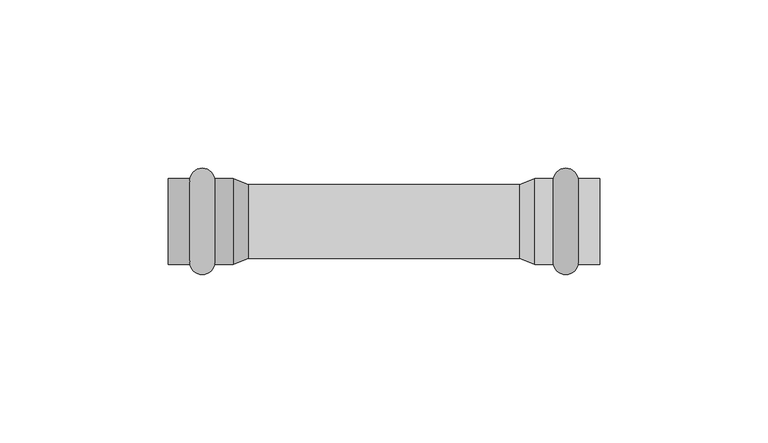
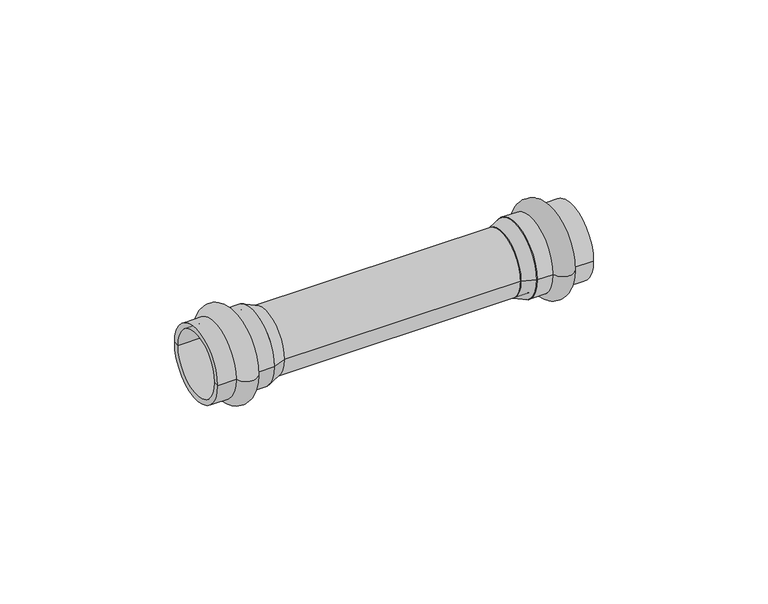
"""IFC4 building model written with IfcOpenShell, lengths in millimetres: pipe fitting geometry, VALTEC_VTi.903.I_Соединитель прямой нержавеющая сталь : VTi.903.I."""

from ifc_helpers import new_model, si_unit, point, frame, origin, origin_2d, place, context, project, spatial, polyline, circle_curve, ellipse_curve, trimmed, segment, composite_curve, outline, extrude, source, transform, mapped, element, save
from ifc_brep_helpers import plane_surface, cylinder_surface, revolved_surface, advanced_brep


def pipe_fitting_5c15d2d0(model_context):
    return source(origin(), model_context, "Body", "SolidModel", [
        advanced_brep(
        [(121.6242346, 12.8, 0.0), (121.6242346, -12.8, 0.0), (114.2757654, -12.8, 0.0), (114.2757654, 12.8, 0.0), (128.0, 12.8, 0.0), (128.0, -12.8, 0.0), (128.0, 11.0, 0.0), (128.0, -11.0, 0.0), (108.8, 11.0, 0.0), (108.8, -11.0, 0.0), (108.8, 12.8, 0.0), (108.8, -12.8, 0.0)],
        [
            (0, 1, circle_curve(frame((121.6242346, 0.0, 0.0), z_axis=(-1.0, 0.0, 0.0), x_axis=(0.0, -1.0, 0.0)), 12.8)),
            (1, 2, circle_curve(frame((117.95, -12.05, 0.0), z_axis=(0.0, 0.0, -1.0), x_axis=(-1.0, 0.0, 0.0)), 3.75)),
            (2, 3, circle_curve(frame((114.2757654, 0.0, 0.0), z_axis=(1.0, 0.0, 0.0), x_axis=(0.0, -1.0, 0.0)), 12.8)),
            (3, 0, circle_curve(frame((117.95, 12.05, 0.0), z_axis=(0.0, 0.0, -1.0), x_axis=(-1.0, 0.0, 0.0)), 3.75)),
            (1, 0, circle_curve(frame((121.6242346, 0.0, 0.0), z_axis=(-1.0, 0.0, 0.0), x_axis=(0.0, -1.0, 0.0)), 12.8)),
            (3, 2, circle_curve(frame((114.2757654, 0.0, 0.0), z_axis=(1.0, 0.0, 0.0), x_axis=(0.0, -1.0, 0.0)), 12.8)),
            (4, 5, circle_curve(frame((128.0, 0.0, 0.0), z_axis=(-1.0, 0.0, 0.0), x_axis=(0.0, -1.0, 0.0)), 12.8)),
            (5, 1),
            (0, 4),
            (5, 4, circle_curve(frame((128.0, 0.0, 0.0), z_axis=(-1.0, 0.0, 0.0), x_axis=(0.0, -1.0, 0.0)), 12.8)),
            (6, 7, circle_curve(frame((128.0, 0.0, 0.0), z_axis=(-1.0, 0.0, 0.0), x_axis=(0.0, -1.0, 0.0)), 11.0)),
            (7, 5),
            (4, 6),
            (7, 6, circle_curve(frame((128.0, 0.0, 0.0), z_axis=(-1.0, 0.0, 0.0), x_axis=(0.0, -1.0, 0.0)), 11.0)),
            (8, 9, circle_curve(frame((108.8, 0.0, 0.0), z_axis=(-1.0, 0.0, 0.0), x_axis=(0.0, -1.0, 0.0)), 11.0)),
            (9, 7),
            (6, 8),
            (9, 8, circle_curve(frame((108.8, 0.0, 0.0), z_axis=(-1.0, 0.0, 0.0), x_axis=(0.0, -1.0, 0.0)), 11.0)),
            (10, 11, circle_curve(frame((108.8, 0.0, 0.0), z_axis=(-1.0, 0.0, 0.0), x_axis=(0.0, -1.0, 0.0)), 12.8)),
            (11, 9),
            (8, 10),
            (11, 10, circle_curve(frame((108.8, 0.0, 0.0), z_axis=(-1.0, 0.0, 0.0), x_axis=(0.0, -1.0, 0.0)), 12.8)),
            (2, 11),
            (10, 3),
        ],
        [
            revolved_surface(trimmed(ellipse_curve(frame((117.95, -12.05, 0.0), z_axis=(0.0, 0.0, 1.0), x_axis=(-1.0, 0.0, 0.0)), 3.75, 3.75), [point((114.2757654, -12.8, 0.0))], [point((121.6242346, -12.8, 0.0))], True, "CARTESIAN"), (131.5364426, 0.0, 0.0), (1.0, 0.0, 0.0)),
            cylinder_surface(frame((131.5364426, 0.0, 0.0), z_axis=(1.0, 0.0, 0.0), x_axis=(0.0, -1.0, 0.0)), 12.8),
            plane_surface(frame((128.0, 0.0, 0.0), z_axis=(1.0, 0.0, 0.0), x_axis=(0.0, -1.0, 0.0))),
            revolved_surface(polyline([(128.0, -11.0, 0.0), (108.8, -11.0, 0.0)]), (131.5364426, 0.0, 0.0), (1.0, 0.0, 0.0)),
            plane_surface(frame((108.8, 0.0, 0.0), z_axis=(-1.0, 0.0, 0.0), x_axis=(0.0, -1.0, 0.0))),
        ],
        [
            (0, [[1, 2, 3, 4]]),
            (0, [[5, -4, 6, -2]]),
            (1, [[7, 8, -1, 9]]),
            (1, [[10, -9, -5, -8]]),
            (2, [[11, 12, -7, 13]]),
            (2, [[14, -13, -10, -12]]),
            (3, [[15, 16, -11, 17]]),
            (3, [[18, -17, -14, -16]]),
            (4, [[19, 20, -15, 21]]),
            (4, [[22, -21, -18, -20]]),
            (1, [[-3, 23, -19, 24]]),
            (1, [[-6, -24, -22, -23]]),
        ],
    ),
        advanced_brep(
        [(6.3757654, -12.8, 0.0), (6.3757654, 12.8, 0.0), (13.7242346, 12.8, 0.0), (13.7242346, -12.8, 0.0), (0.0, -12.8, 0.0), (0.0, 12.8, 0.0), (0.0, -11.0, 0.0), (0.0, 11.0, 0.0), (19.2, -11.0, 0.0), (19.2, 11.0, 0.0), (19.2, -12.8, 0.0), (19.2, 12.8, 0.0)],
        [
            (0, 1, circle_curve(frame((6.3757654, 0.0, 0.0), z_axis=(1.0, 0.0, 0.0), x_axis=(0.0, 1.0, 0.0)), 12.8)),
            (1, 2, circle_curve(frame((10.05, 12.05, 0.0), z_axis=(0.0, 0.0, -1.0), x_axis=(1.0, 0.0, 0.0)), 3.75)),
            (2, 3, circle_curve(frame((13.7242346, 0.0, 0.0), z_axis=(-1.0, 0.0, 0.0), x_axis=(0.0, 1.0, 0.0)), 12.8)),
            (3, 0, circle_curve(frame((10.05, -12.05, 0.0), z_axis=(0.0, 0.0, -1.0), x_axis=(1.0, 0.0, 0.0)), 3.75)),
            (1, 0, circle_curve(frame((6.3757654, 0.0, 0.0), z_axis=(1.0, 0.0, 0.0), x_axis=(0.0, 1.0, 0.0)), 12.8)),
            (3, 2, circle_curve(frame((13.7242346, 0.0, 0.0), z_axis=(-1.0, 0.0, 0.0), x_axis=(0.0, 1.0, 0.0)), 12.8)),
            (4, 5, circle_curve(frame((0.0, 0.0, 0.0), z_axis=(1.0, 0.0, 0.0), x_axis=(0.0, 1.0, 0.0)), 12.8)),
            (5, 1),
            (0, 4),
            (5, 4, circle_curve(frame((0.0, 0.0, 0.0), z_axis=(1.0, 0.0, 0.0), x_axis=(0.0, 1.0, 0.0)), 12.8)),
            (6, 7, circle_curve(frame((0.0, 0.0, 0.0), z_axis=(1.0, 0.0, 0.0), x_axis=(0.0, 1.0, 0.0)), 11.0)),
            (7, 5),
            (4, 6),
            (7, 6, circle_curve(frame((0.0, 0.0, 0.0), z_axis=(1.0, 0.0, 0.0), x_axis=(0.0, 1.0, 0.0)), 11.0)),
            (8, 9, circle_curve(frame((19.2, 0.0, 0.0), z_axis=(1.0, 0.0, 0.0), x_axis=(0.0, 1.0, 0.0)), 11.0)),
            (9, 7),
            (6, 8),
            (9, 8, circle_curve(frame((19.2, 0.0, 0.0), z_axis=(1.0, 0.0, 0.0), x_axis=(0.0, 1.0, 0.0)), 11.0)),
            (10, 11, circle_curve(frame((19.2, 0.0, 0.0), z_axis=(1.0, 0.0, 0.0), x_axis=(0.0, 1.0, 0.0)), 12.8)),
            (11, 9),
            (8, 10),
            (11, 10, circle_curve(frame((19.2, 0.0, 0.0), z_axis=(1.0, 0.0, 0.0), x_axis=(0.0, 1.0, 0.0)), 12.8)),
            (2, 11),
            (10, 3),
        ],
        [
            revolved_surface(trimmed(ellipse_curve(frame((10.05, 12.05, 0.0), z_axis=(0.0, 0.0, 1.0), x_axis=(1.0, 0.0, 0.0)), 3.75, 3.75), [point((13.7242346, 12.8, 0.0))], [point((6.3757654, 12.8, 0.0))], True, "CARTESIAN"), (-3.5364426, 0.0, 0.0), (-1.0, 0.0, 0.0)),
            cylinder_surface(frame((-3.5364426, 0.0, 0.0), z_axis=(-1.0, 0.0, 0.0), x_axis=(0.0, 1.0, 0.0)), 12.8),
            plane_surface(frame((0.0, 0.0, 0.0), z_axis=(-1.0, 0.0, 0.0), x_axis=(0.0, 1.0, 0.0))),
            revolved_surface(polyline([(0.0, 11.0, 0.0), (19.2, 11.0, 0.0)]), (-3.5364426, 0.0, 0.0), (-1.0, 0.0, 0.0)),
            plane_surface(frame((19.2, 0.0, 0.0), z_axis=(1.0, 0.0, 0.0), x_axis=(0.0, 1.0, 0.0))),
        ],
        [
            (0, [[1, 2, 3, 4]]),
            (0, [[5, -4, 6, -2]]),
            (1, [[7, 8, -1, 9]]),
            (1, [[10, -9, -5, -8]]),
            (2, [[11, 12, -7, 13]]),
            (2, [[14, -13, -10, -12]]),
            (3, [[15, 16, -11, 17]]),
            (3, [[18, -17, -14, -16]]),
            (4, [[19, 20, -15, 21]]),
            (4, [[22, -21, -18, -20]]),
            (1, [[-3, 23, -19, 24]]),
            (1, [[-6, -24, -22, -23]]),
        ],
    ),
        advanced_brep(
        [(19.2, -12.8, 0.0), (19.2, 12.8, 0.0), (23.68, -11.0, 0.0), (23.68, 11.0, 0.0)],
        [
            (0, 1, circle_curve(frame((19.2, 0.0, 0.0), z_axis=(-1.0, 0.0, 0.0), x_axis=(0.0, -1.0, 0.0)), 12.8)),
            (1, 0, circle_curve(frame((19.2, 0.0, 0.0), z_axis=(-1.0, 0.0, 0.0), x_axis=(0.0, 1.0, 0.0)), 12.8)),
            (2, 3, circle_curve(frame((23.68, 0.0, 0.0), z_axis=(1.0, 0.0, 0.0), x_axis=(0.0, 1.0, 0.0)), 11.0)),
            (3, 2, circle_curve(frame((23.68, 0.0, 0.0), z_axis=(1.0, 0.0, 0.0), x_axis=(0.0, -1.0, 0.0)), 11.0)),
            (2, 0),
            (1, 3),
        ],
        [
            plane_surface(frame((19.2, 0.0, 0.0), z_axis=(-1.0, 0.0, 0.0), x_axis=(0.0, 0.0, 1.0))),
            plane_surface(frame((23.68, 0.0, 0.0), z_axis=(1.0, 0.0, 0.0), x_axis=(0.0, 0.0, 1.0))),
            revolved_surface(polyline([(23.68, -11.00000000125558, 0.0), (19.2, -12.8, 0.0)]), (51.0577778, 0.0, 0.0), (-1.0, 0.0, 0.0)),
            revolved_surface(polyline([(23.68, 11.00000000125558, 0.0), (19.2, 12.8, 0.0)]), (51.0577778, 0.0, 0.0), (-1.0, 0.0, 0.0)),
        ],
        [
            (0, [[1, 2]]),
            (1, [[3, 4]]),
            (2, [[-3, 5, -2, 6]]),
            (3, [[-4, -6, -1, -5]]),
        ],
    ),
        advanced_brep(
        [(108.8, -12.8, 0.0), (108.8, 12.8, 0.0), (104.32, -11.0, 0.0), (104.32, 11.0, 0.0)],
        [
            (0, 1, circle_curve(frame((108.8, 0.0, 0.0), z_axis=(1.0, 0.0, 0.0), x_axis=(0.0, -1.0, 0.0)), 12.8)),
            (1, 0, circle_curve(frame((108.8, 0.0, 0.0), z_axis=(1.0, 0.0, 0.0), x_axis=(0.0, 1.0, 0.0)), 12.8)),
            (2, 3, circle_curve(frame((104.32, 0.0, 0.0), z_axis=(-1.0, 0.0, 0.0), x_axis=(0.0, 1.0, 0.0)), 11.0)),
            (3, 2, circle_curve(frame((104.32, 0.0, 0.0), z_axis=(-1.0, 0.0, 0.0), x_axis=(0.0, -1.0, 0.0)), 11.0)),
            (3, 1),
            (0, 2),
        ],
        [
            plane_surface(frame((108.8, 0.0, 0.0), z_axis=(1.0, 0.0, 0.0), x_axis=(0.0, 0.0, -1.0))),
            plane_surface(frame((104.32, 0.0, 0.0), z_axis=(-1.0, 0.0, 0.0), x_axis=(0.0, 0.0, -1.0))),
            revolved_surface(polyline([(104.32, 11.000000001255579, 0.0), (108.8, 12.8, 0.0)]), (76.9422222, 0.0, 0.0), (1.0, 0.0, 0.0)),
            revolved_surface(polyline([(104.32, -11.000000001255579, 0.0), (108.8, -12.8, 0.0)]), (76.9422222, 0.0, 0.0), (1.0, 0.0, 0.0)),
        ],
        [
            (0, [[1, 2]]),
            (1, [[3, 4]]),
            (2, [[-4, 5, -1, 6]]),
            (3, [[-3, -6, -2, -5]]),
        ],
    ),
        extrude(outline(composite_curve([segment(trimmed(circle_curve(origin_2d(), 11.0), [point((-11.0, 0.0))], [point((11.0, 0.0))], False, "CARTESIAN"), True, "CONTINUOUS"), segment(trimmed(circle_curve(origin_2d(), 11.0), [point((11.0, 0.0))], [point((-11.0, 0.0))], False, "CARTESIAN"), True, "CONTINUOUS")], self_intersect=False)), frame((19.2, 0.0, 0.0), z_axis=(1.0, 0.0, 0.0), x_axis=(0.0, 1.0, 0.0)), (0.0, 0.0, 1.0), 89.6),
    ])


if __name__ == "__main__":
    model = new_model("IFC4")
    model_context = context("Model", 3, world=origin())
    ifc_project = project(units=[si_unit("LENGTHUNIT", "METRE", prefix="MILLI")], contexts=[model_context])
    site = spatial("IfcSite", under=ifc_project)
    building = spatial("IfcBuilding", under=site)
    placement = place(None, origin())
    pipe_fitting_shape = pipe_fitting_5c15d2d0(model_context)
    element("IfcPipeFitting", 1, ObjectType="VALTEC_VTi.903.I_Соединитель прямой нержавеющая сталь : VTi.903.I", at=placement, inside=building, context=model_context, shape_type="MappedRepresentation", body=[
        mapped(pipe_fitting_shape, transform((0.0, 0.0, 0.0), x_axis=(1.0, 0.0, 0.0), y_axis=(0.0, 1.0, 0.0), z_axis=(0.0, 0.0, 1.0))),
    ])
    save(model, "model.ifc")
